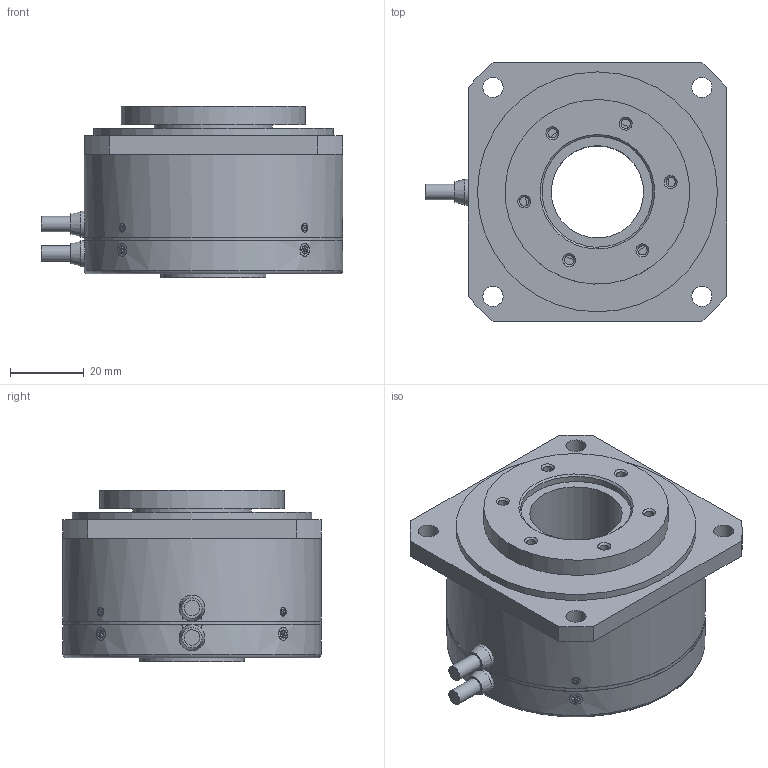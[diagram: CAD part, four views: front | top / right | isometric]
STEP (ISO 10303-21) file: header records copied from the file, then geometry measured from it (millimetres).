
FILE_DESCRIPTION(('STEP AP214'),'1');
FILE_NAME('MDH-7012.stp','2017-10-11T11:13:17',(' '),(' '),'Spatial InterOp 3D',' ',' ');
FILE_SCHEMA(('automotive_design'));
Length unit declared in the file: millimetre
Products named in the file (11): オイルシール; ケーブル; タッピングネジ M1.4x2.2; サラコネジ F3 M2x2.5; ﾌﾗﾝｼﾞ付深溝ﾍﾞｱﾘﾝｸﾞ F6806 2RU; ブッシュ; カバー; ベース; シャフト_7012; ケース_7012
Assembly tree (19 placements, depth 2):
  (unnamed)
    オイルシール
    ケーブル  x2
    タッピングネジ M1.4x2.2  x4
    サラコネジ F3 M2x2.5  x4
    ﾌﾗﾝｼﾞ付深溝ﾍﾞｱﾘﾝｸﾞ F6806 2RU  x2
    ブッシュ  x2
    カバー
    ベース
    シャフト_7012
    ケース_7012
Bounding box: 81.61 x 70 x 46.5 mm (x, y, z)
Volume: 67843.1 mm3; surface area: 63275.2 mm2
Topology: 19 solids, 21 shells, 411 faces, 957 edges, 622 vertices
Faces by surface type: plane 226, cylinder 133, cone 44, torus 4, bspline 4
Full cylindrical faces by diameter (mm): 1.4 x8, 1.5 x4, 1.6 x12, 2 x8, 2.2 x4, 2.3 x4, 2.5 x6, 3.5 x4, 4.2 x4, 5.5 x4, 7 x2, 25 x1, 28.5 x2, 30 x5, 30.5 x1, 32 x1, 33 x6, 35 x2, 36.5 x1, 39 x6, 42 x4, 45 x3, 45.5 x1, 46 x1, 50 x1, 65 x2, 66 x1, 68 x2, 70 x3
Entity records: 9333 total; most frequent: CARTESIAN_POINT 2047, DIRECTION 1079, ORIENTED_EDGE 836, AXIS2_PLACEMENT_3D 444, EDGE_LOOP 436, EDGE_CURVE 418, VERTEX_POINT 334, FACE_OUTER_BOUND 323
